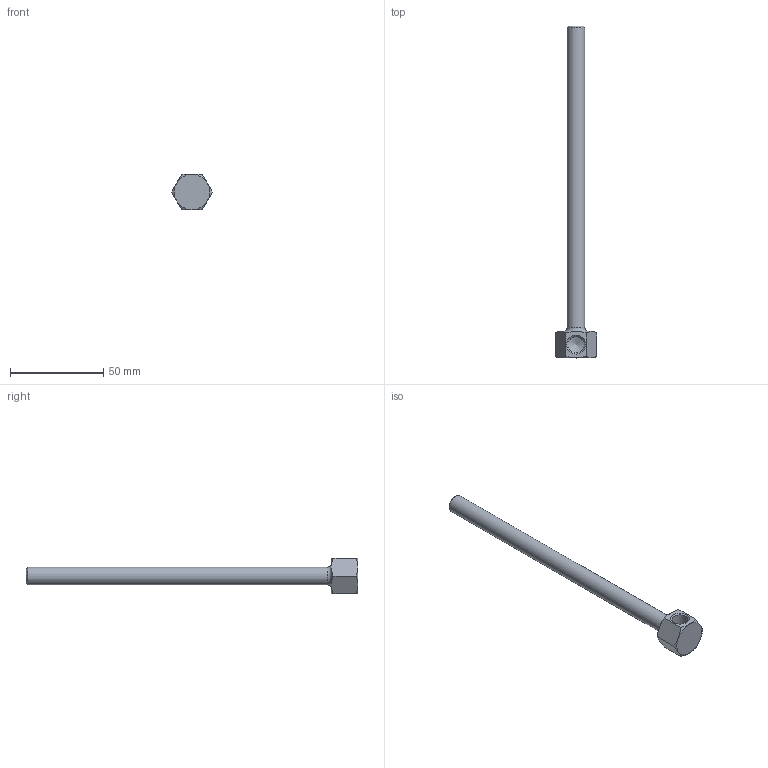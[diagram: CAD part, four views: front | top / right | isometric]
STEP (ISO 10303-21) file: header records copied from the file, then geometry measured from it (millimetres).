
FILE_DESCRIPTION(/* description */ (''),/* implementation_level */ '2;1');
FILE_NAME(/* name */ 'C:/Users/drich/Desktop/18B-7 v1.step',/* time_stamp */ '2019-12-29T15:21:00-06:00',/* author */ (''),/* organization */ (''),/* preprocessor_version */ 'ST-DEVELOPER v18',/* originating_system */ 'Autodesk Translation Framework v8.12.0.6',/* authorisation */ '');
FILE_SCHEMA (('AUTOMOTIVE_DESIGN { 1 0 10303 214 3 1 1 }'));
Length unit declared in the file: inch
Products named in the file (1): 18B-7
Bounding box: 22 x 177.8 x 19.05 mm (x, y, z)
Volume: 10297.2 mm3; surface area: 10048.1 mm2
Topology: 1 solids, 1 shells, 19 faces, 48 edges, 31 vertices
Faces by surface type: plane 9, cone 6, cylinder 3, torus 1
Full cylindrical faces by diameter (mm): 6.35 x1, 8.707 x1, 9.621 x1
Entity records: 633 total; most frequent: CARTESIAN_POINT 159, ORIENTED_EDGE 94, DIRECTION 89, EDGE_CURVE 47, AXIS2_PLACEMENT_3D 37, VERTEX_POINT 31, EDGE_LOOP 22, FACE_OUTER_BOUND 19
